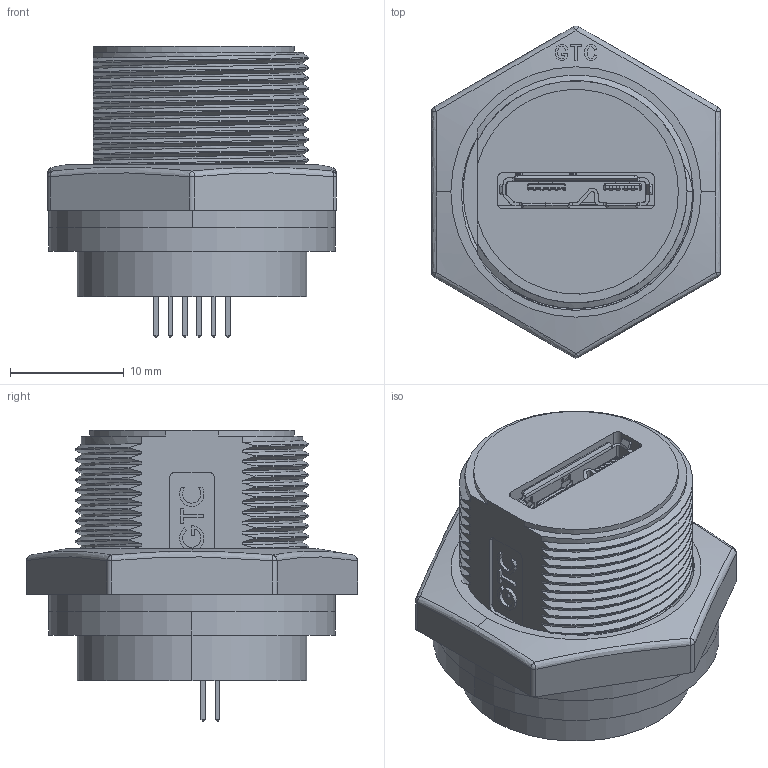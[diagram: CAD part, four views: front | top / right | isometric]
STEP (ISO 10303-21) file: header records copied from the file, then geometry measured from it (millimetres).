
FILE_DESCRIPTION (( 'STEP AP203' ), '1' );
FILE_NAME ('RR-119300-10.STEP', '2025-02-17T08:11:09', ( '' ), ( '' ), 'SwSTEP 2.0', 'SolidWorks 2019', '' );
FILE_SCHEMA (( 'CONFIG_CONTROL_DESIGN' ));
Length unit declared in the file: millimetre
Products named in the file (1): RR-119300-10
Bounding box: 25.4 x 29.17 x 25.6 mm (x, y, z)
Volume: 7060.5 mm3; surface area: 6604.7 mm2
Topology: 3 solids, 4 shells, 1551 faces, 4381 edges, 2831 vertices
Faces by surface type: plane 1023, cylinder 390, bspline 95, sphere 26, torus 10, cone 7
Entity records: 76102 total; most frequent: CARTESIAN_POINT 37666, ORIENTED_EDGE 8720, DIRECTION 6946, EDGE_CURVE 4360, VECTOR 3082, LINE 3082, VERTEX_POINT 2825, AXIS2_PLACEMENT_3D 1932
